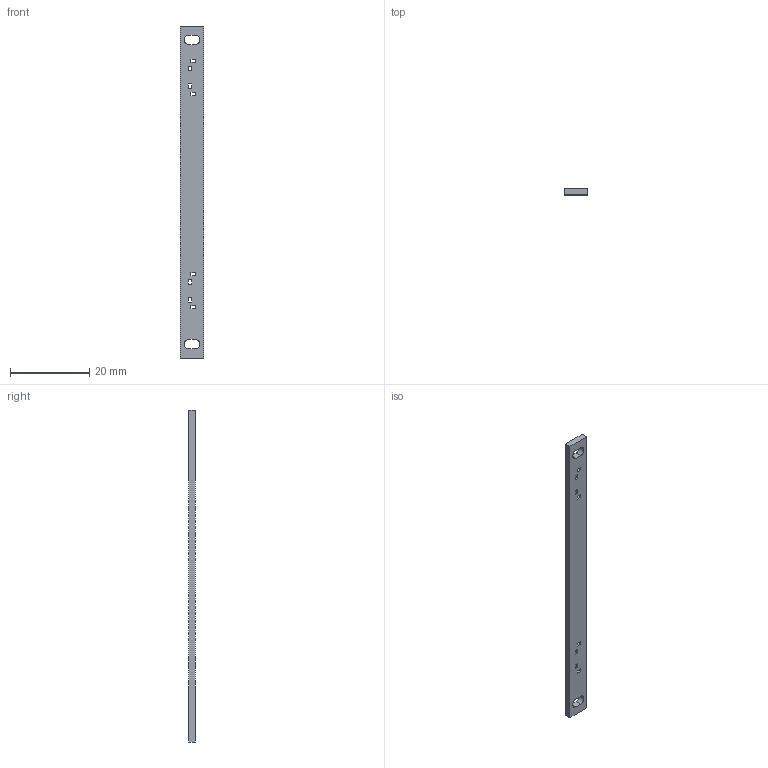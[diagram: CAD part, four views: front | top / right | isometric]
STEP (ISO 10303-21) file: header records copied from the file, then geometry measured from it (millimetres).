
FILE_DESCRIPTION(('Open CASCADE Model'),'2;1');
FILE_NAME('carrier_left_ptt_fr4_handwired','2026-09-06T11:35:11',( 'Author'),('Open CASCADE'),'Open CASCADE STEP processor 7.8', 'build123d','Unknown');
FILE_SCHEMA(('AUTOMOTIVE_DESIGN { 1 0 10303 214 1 1 1 1 }'));
Length unit declared in the file: millimetre
Products named in the file (1): carrier_left_ptt_fr4_handwired
Bounding box: 6 x 1.6 x 84 mm (x, y, z)
Volume: 767.3 mm3; surface area: 1332.8 mm2
Topology: 1 solids, 1 shells, 46 faces, 132 edges, 88 vertices
Faces by surface type: plane 42, cylinder 4
Entity records: 3259 total; most frequent: CARTESIAN_POINT 531, DIRECTION 498, LINE 380, VECTOR 380, ORIENTED_EDGE 264, PCURVE 264, DEFINITIONAL_REPRESENTATION 264, EDGE_CURVE 132
